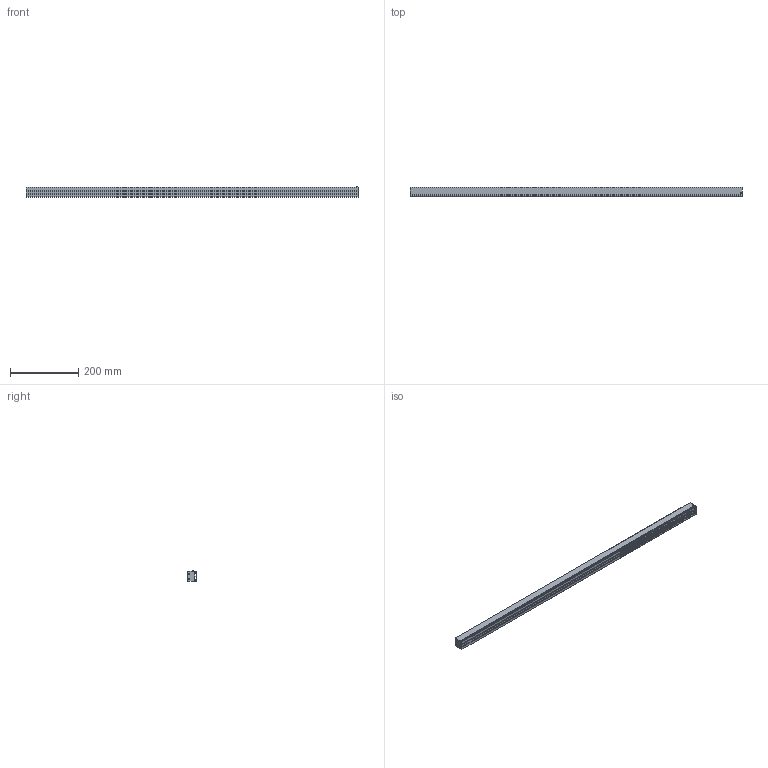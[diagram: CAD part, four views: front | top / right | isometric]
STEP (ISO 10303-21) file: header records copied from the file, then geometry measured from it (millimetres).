
FILE_DESCRIPTION (( 'STEP AP203' ), '1' );
FILE_NAME ('LRD-B4-970.STEP', '2022-08-22T07:15:54', ( 'TNT' ), ( '' ), 'SwSTEP 2.0', 'SolidWorks 2018', '' );
FILE_SCHEMA (( 'CONFIG_CONTROL_DESIGN' ));
Length unit declared in the file: millimetre
Products named in the file (1): LRD-B4-970
Bounding box: 970 x 27.7 x 30.6 mm (x, y, z)
Volume: 635417 mm3; surface area: 175605.5 mm2
Topology: 1 solids, 1 shells, 66 faces, 178 edges, 112 vertices
Faces by surface type: plane 48, cylinder 10, cone 8
Entity records: 2059 total; most frequent: CARTESIAN_POINT 349, ORIENTED_EDGE 340, DIRECTION 324, EDGE_CURVE 170, LINE 150, VECTOR 150, VERTEX_POINT 112, AXIS2_PLACEMENT_3D 87
